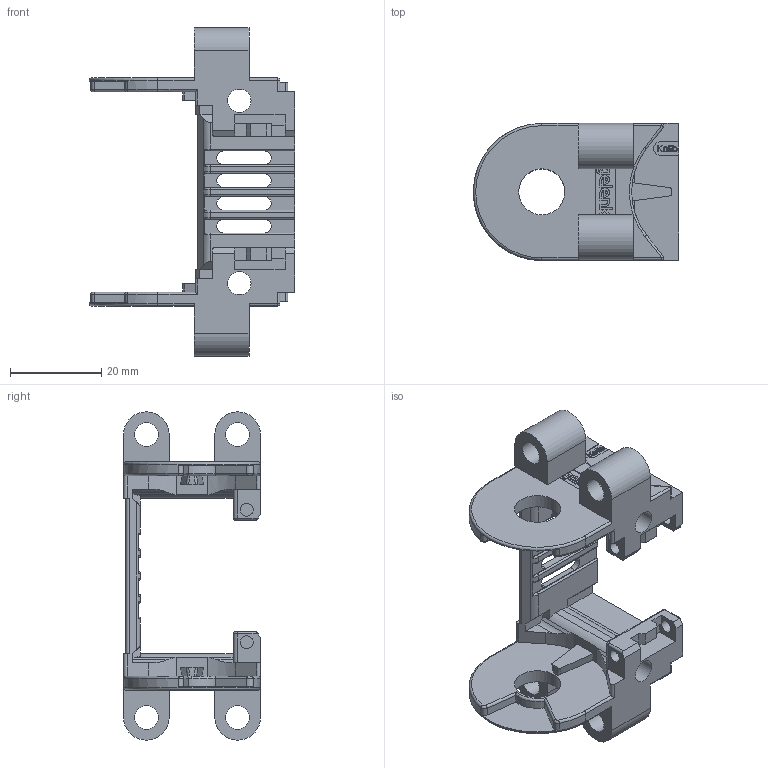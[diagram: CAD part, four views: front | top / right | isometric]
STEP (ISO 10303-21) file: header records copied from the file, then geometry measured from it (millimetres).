
FILE_DESCRIPTION((''),'2;1');
FILE_NAME('E:\Uebbing\PARAMETERKETTEN\KOLIBRI\Kol_30_050_0\Kol 30_050_0 Stirnflansch Bohrung.stp','2017-04-03T10:12:27',('Nutzer'),(''),'Autodesk Inventor 10','Autodesk Inventor 10','');
FILE_SCHEMA(('AUTOMOTIVE_DESIGN { 1 0 10303 214 1 1 1 1 }'));
Length unit declared in the file: millimetre
Products named in the file (1): Kol 30_050_0 Stirnflansch Bohrung
Bounding box: 45 x 30 x 72 mm (x, y, z)
Volume: 14167.4 mm3; surface area: 12345.1 mm2
Topology: 1 solids, 1 shells, 521 faces, 1438 edges, 936 vertices
Faces by surface type: plane 296, cylinder 142, bspline 43, torus 30, sphere 6, cone 4
Full cylindrical faces by diameter (mm): 1.166 x1, 2.048 x1, 2.8 x4, 5.1 x2, 5.2 x4, 10.1 x2
Entity records: 17460 total; most frequent: CARTESIAN_POINT 4206, ORIENTED_EDGE 2830, DIRECTION 2642, EDGE_CURVE 1415, VERTEX_POINT 933, VECTOR 926, LINE 926, AXIS2_PLACEMENT_3D 858
